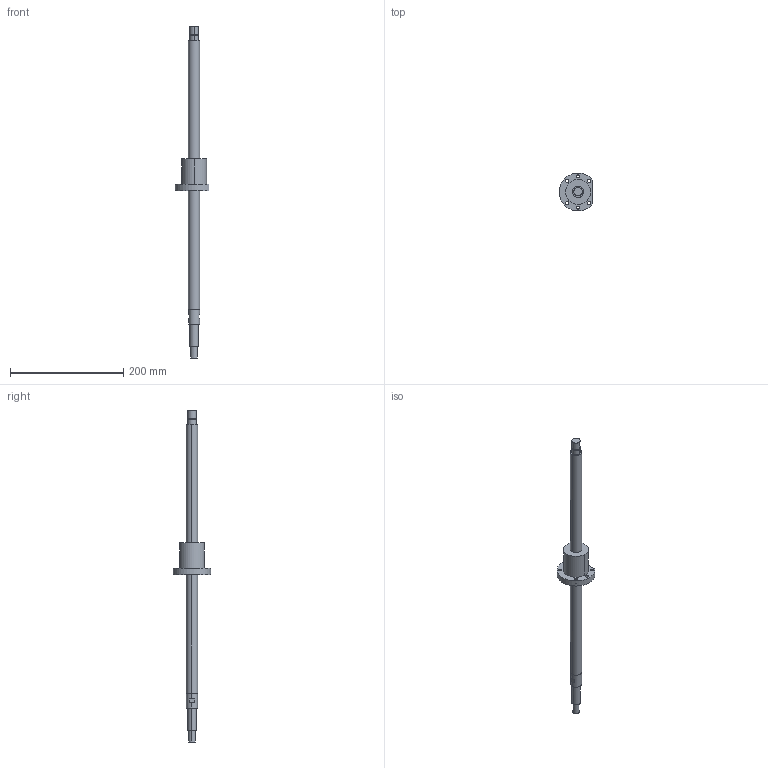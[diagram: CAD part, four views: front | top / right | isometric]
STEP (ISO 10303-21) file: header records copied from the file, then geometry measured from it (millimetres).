
FILE_DESCRIPTION((''),'2;1');
FILE_NAME('PRT0001','2008-03-31T',('mahdi'),(''),'PRO/ENGINEER BY PARAMETRIC TECHNOLOGY CORPORATION, 2005070','PRO/ENGINEER BY PARAMETRIC TECHNOLOGY CORPORATION, 2005070','');
FILE_SCHEMA(('CONFIG_CONTROL_DESIGN'));
Length unit declared in the file: millimetre
Products named in the file (1): PRT0001
Bounding box: 59.38 x 66.95 x 586 mm (x, y, z)
Volume: 254716.1 mm3; surface area: 48178.2 mm2
Topology: 1 solids, 1 shells, 67 faces, 150 edges, 100 vertices
Faces by surface type: cylinder 43, plane 24
Entity records: 1980 total; most frequent: DIRECTION 378, CARTESIAN_POINT 317, ORIENTED_EDGE 300, AXIS2_PLACEMENT_3D 161, EDGE_CURVE 150, VERTEX_POINT 100, EDGE_LOOP 94, CIRCLE 94
